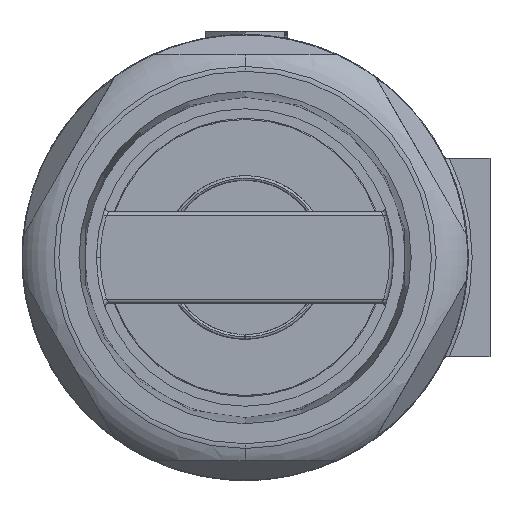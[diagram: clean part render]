
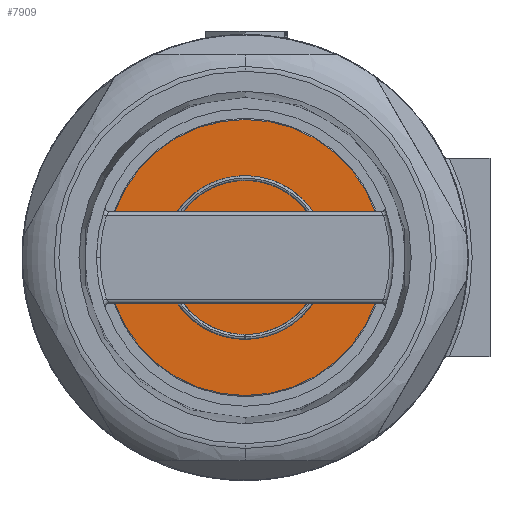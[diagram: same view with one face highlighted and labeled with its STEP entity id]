
A CAD part, left-side view. The second image highlights one B-rep face of the part: STEP entity #7909.
In plain terms, the highlighted planar face has unit normal (-1, 0, 0).
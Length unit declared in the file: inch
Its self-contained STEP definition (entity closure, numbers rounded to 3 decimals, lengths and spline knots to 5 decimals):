
#80 = CARTESIAN_POINT ( 'NONE',  ( 0.35805, 0.08878, -0.178 ) ) ;
#203 = CARTESIAN_POINT ( 'NONE',  ( 0.35805, 0.08975, -0.17794 ) ) ;
#752 = CARTESIAN_POINT ( 'NONE',  ( 0.35805, 0., -0.194 ) ) ;
#789 = EDGE_CURVE ( 'NONE', #10879, #6245, #2659, .T. ) ;
#905 = EDGE_CURVE ( 'NONE', #8162, #8739, #5631, .T. ) ;
#1234 = CARTESIAN_POINT ( 'NONE',  ( 0.35805, 0.08951, -0.17795 ) ) ;
#1369 = CARTESIAN_POINT ( 'NONE',  ( 0.35805, 0.34799, 0. ) ) ;
#1404 = CARTESIAN_POINT ( 'NONE',  ( 0.35805, 0.0902, -0.17943 ) ) ;
#1664 = AXIS2_PLACEMENT_3D ( 'NONE', #1369, #5122, #2354 ) ;
#1974 = CARTESIAN_POINT ( 'NONE',  ( 0.35805, 0.08128, -0.1799 ) ) ;
#2148 = DIRECTION ( 'NONE',  ( -1., 0., 0. ) ) ;
#2206 = CARTESIAN_POINT ( 'NONE',  ( 0.35805, 0.05555, -0.19741 ) ) ;
#2229 = FACE_OUTER_BOUND ( 'NONE', #8149, .T. ) ;
#2274 = CIRCLE ( 'NONE', #2862, 0.34799 ) ;
#2330 = CARTESIAN_POINT ( 'NONE',  ( 0.35805, 0.01621, -0.206 ) ) ;
#2335 = DIRECTION ( 'NONE',  ( -1., 0., 0. ) ) ;
#2339 = DIRECTION ( 'NONE',  ( 0., 0., 1. ) ) ;
#2354 = DIRECTION ( 'NONE',  ( 0., 0., -1. ) ) ;
#2386 = CARTESIAN_POINT ( 'NONE',  ( 0.35805, 0.08737, -0.18197 ) ) ;
#2659 = B_SPLINE_CURVE_WITH_KNOTS ( 'NONE', 3,
 ( #7068, #2330, #11722, #2206, #8891, #9862, #9016, #8834, #5960, #2386, #10786, #7854, #10843, #1404, #11775, #9747, #6089, #3372 ),
 .UNSPECIFIED., .F., .F.,
 ( 4, 2, 2, 2, 2, 2, 2, 2, 4 ),
 ( 0., 0.00123, 0.00185, 0.00216, 0.00232, 0.00239, 0.00243, 0.00245, 0.00247 ),
 .UNSPECIFIED. ) ;
#2696 = CARTESIAN_POINT ( 'NONE',  ( 0.35805, 0., 0. ) ) ;
#2862 = AXIS2_PLACEMENT_3D ( 'NONE', #3069, #2148, #5898 ) ;
#3022 = CARTESIAN_POINT ( 'NONE',  ( 0.35805, 0.01551, -0.194 ) ) ;
#3069 = CARTESIAN_POINT ( 'NONE',  ( 0.35805, 0., 0. ) ) ;
#3078 = AXIS2_PLACEMENT_3D ( 'NONE', #2696, #10230, #11026 ) ;
#3157 = PLANE ( 'NONE',  #1664 ) ;
#3372 = CARTESIAN_POINT ( 'NONE',  ( 0.35805, 0.09062, -0.17829 ) ) ;
#3595 = EDGE_CURVE ( 'NONE', #6245, #9902, #6411, .T. ) ;
#3651 = CARTESIAN_POINT ( 'NONE',  ( 0.35805, 0., 0. ) ) ;
#3816 = AXIS2_PLACEMENT_3D ( 'NONE', #6951, #11838, #2339 ) ;
#3823 = CARTESIAN_POINT ( 'NONE',  ( 0.35805, 0.0883, -0.17808 ) ) ;
#3894 = CARTESIAN_POINT ( 'NONE',  ( 0.35805, 0.07572, -0.18158 ) ) ;
#3921 = ORIENTED_EDGE ( 'NONE', *, *, #6478, .T. ) ;
#3951 = CARTESIAN_POINT ( 'NONE',  ( 0.35805, 0.05339, -0.18781 ) ) ;
#4070 = EDGE_CURVE ( 'NONE', #8739, #8162, #5795, .T. ) ;
#4585 = CARTESIAN_POINT ( 'NONE',  ( 0.35805, 0., -0.206 ) ) ;
#4754 = EDGE_CURVE ( 'NONE', #9902, #10879, #9352, .T. ) ;
#4806 = CARTESIAN_POINT ( 'NONE',  ( 0.35805, 0.08594, -0.17859 ) ) ;
#4870 = CARTESIAN_POINT ( 'NONE',  ( 0.35805, 0.06087, -0.18592 ) ) ;
#5077 = EDGE_LOOP ( 'NONE', ( #6398, #9574, #9844 ) ) ;
#5085 = VERTEX_POINT ( 'NONE', #9586 ) ;
#5122 = DIRECTION ( 'NONE',  ( 1., 0., 0. ) ) ;
#5631 = CIRCLE ( 'NONE', #3078, 0.10748 ) ;
#5795 = CIRCLE ( 'NONE', #7942, 0.10748 ) ;
#5857 = CARTESIAN_POINT ( 'NONE',  ( 0.35805, 0.09051, -0.17807 ) ) ;
#5898 = DIRECTION ( 'NONE',  ( 0., 0., 1. ) ) ;
#5960 = CARTESIAN_POINT ( 'NONE',  ( 0.35805, 0.08488, -0.18373 ) ) ;
#6089 = CARTESIAN_POINT ( 'NONE',  ( 0.35805, 0.09074, -0.17852 ) ) ;
#6092 = DIRECTION ( 'NONE',  ( 0., 0., 1. ) ) ;
#6245 = VERTEX_POINT ( 'NONE', #8013 ) ;
#6265 = VERTEX_POINT ( 'NONE', #10090 ) ;
#6398 = ORIENTED_EDGE ( 'NONE', *, *, #789, .T. ) ;
#6411 = B_SPLINE_CURVE_WITH_KNOTS ( 'NONE', 3,
 ( #6777, #5857, #6721, #203, #1234, #80, #3823, #11483, #4806, #6665, #1974, #3894, #10435, #4870, #3951, #11423, #3022, #10497 ),
 .UNSPECIFIED., .F., .F.,
 ( 4, 2, 2, 2, 2, 2, 2, 2, 4 ),
 ( 0.00247, 0.00249, 0.00251, 0.00254, 0.00262, 0.00277, 0.00306, 0.00366, 0.00485 ),
 .UNSPECIFIED. ) ;
#6478 = EDGE_CURVE ( 'NONE', #6265, #5085, #7356, .T. ) ;
#6665 = CARTESIAN_POINT ( 'NONE',  ( 0.35805, 0.08313, -0.17934 ) ) ;
#6721 = CARTESIAN_POINT ( 'NONE',  ( 0.35805, 0.09023, -0.17801 ) ) ;
#6777 = CARTESIAN_POINT ( 'NONE',  ( 0.35805, 0.09062, -0.17829 ) ) ;
#6782 = VECTOR ( 'NONE', #7521, 39.37008 ) ;
#6951 = CARTESIAN_POINT ( 'NONE',  ( 0.35805, 0., 0. ) ) ;
#7068 = CARTESIAN_POINT ( 'NONE',  ( 0.35805, 0., -0.206 ) ) ;
#7095 = CARTESIAN_POINT ( 'NONE',  ( 0.35805, 0., -0.10748 ) ) ;
#7356 = CIRCLE ( 'NONE', #3816, 0.34799 ) ;
#7521 = DIRECTION ( 'NONE',  ( 0., 0., -1. ) ) ;
#7718 = ORIENTED_EDGE ( 'NONE', *, *, #4070, .F. ) ;
#7854 = CARTESIAN_POINT ( 'NONE',  ( 0.35805, 0.08933, -0.18035 ) ) ;
#7909 = ADVANCED_FACE ( 'NONE', ( #11680, #9885, #2229 ), #3157, .F. ) ;
#7942 = AXIS2_PLACEMENT_3D ( 'NONE', #10731, #2335, #6092 ) ;
#8013 = CARTESIAN_POINT ( 'NONE',  ( 0.35805, 0.09062, -0.17829 ) ) ;
#8149 = EDGE_LOOP ( 'NONE', ( #3921, #9186 ) ) ;
#8162 = VERTEX_POINT ( 'NONE', #10282 ) ;
#8739 = VERTEX_POINT ( 'NONE', #7095 ) ;
#8834 = CARTESIAN_POINT ( 'NONE',  ( 0.35805, 0.08316, -0.18481 ) ) ;
#8891 = CARTESIAN_POINT ( 'NONE',  ( 0.35805, 0.06323, -0.1947 ) ) ;
#9016 = CARTESIAN_POINT ( 'NONE',  ( 0.35805, 0.0779, -0.18788 ) ) ;
#9186 = ORIENTED_EDGE ( 'NONE', *, *, #9230, .T. ) ;
#9230 = EDGE_CURVE ( 'NONE', #5085, #6265, #2274, .T. ) ;
#9352 = LINE ( 'NONE', #3651, #6782 ) ;
#9574 = ORIENTED_EDGE ( 'NONE', *, *, #3595, .T. ) ;
#9586 = CARTESIAN_POINT ( 'NONE',  ( 0.35805, 0., -0.34799 ) ) ;
#9747 = CARTESIAN_POINT ( 'NONE',  ( 0.35805, 0.09061, -0.17879 ) ) ;
#9831 = EDGE_LOOP ( 'NONE', ( #11036, #7718 ) ) ;
#9844 = ORIENTED_EDGE ( 'NONE', *, *, #4754, .T. ) ;
#9862 = CARTESIAN_POINT ( 'NONE',  ( 0.35805, 0.07428, -0.18969 ) ) ;
#9885 = FACE_BOUND ( 'NONE', #9831, .T. ) ;
#9902 = VERTEX_POINT ( 'NONE', #752 ) ;
#10090 = CARTESIAN_POINT ( 'NONE',  ( 0.35805, 0., 0.34799 ) ) ;
#10230 = DIRECTION ( 'NONE',  ( -1., 0., 0. ) ) ;
#10282 = CARTESIAN_POINT ( 'NONE',  ( 0.35805, 0., 0.10748 ) ) ;
#10435 = CARTESIAN_POINT ( 'NONE',  ( 0.35805, 0.07202, -0.18271 ) ) ;
#10497 = CARTESIAN_POINT ( 'NONE',  ( 0.35805, 0., -0.194 ) ) ;
#10731 = CARTESIAN_POINT ( 'NONE',  ( 0.35805, 0., 0. ) ) ;
#10786 = CARTESIAN_POINT ( 'NONE',  ( 0.35805, 0.08818, -0.18136 ) ) ;
#10843 = CARTESIAN_POINT ( 'NONE',  ( 0.35805, 0.0897, -0.18001 ) ) ;
#10879 = VERTEX_POINT ( 'NONE', #4585 ) ;
#11026 = DIRECTION ( 'NONE',  ( 0., 0., 1. ) ) ;
#11036 = ORIENTED_EDGE ( 'NONE', *, *, #905, .F. ) ;
#11423 = CARTESIAN_POINT ( 'NONE',  ( 0.35805, 0.03079, -0.19238 ) ) ;
#11483 = CARTESIAN_POINT ( 'NONE',  ( 0.35805, 0.08687, -0.17835 ) ) ;
#11680 = FACE_BOUND ( 'NONE', #5077, .T. ) ;
#11722 = CARTESIAN_POINT ( 'NONE',  ( 0.35805, 0.03229, -0.20388 ) ) ;
#11775 = CARTESIAN_POINT ( 'NONE',  ( 0.35805, 0.09036, -0.17923 ) ) ;
#11838 = DIRECTION ( 'NONE',  ( -1., 0., 0. ) ) ;
